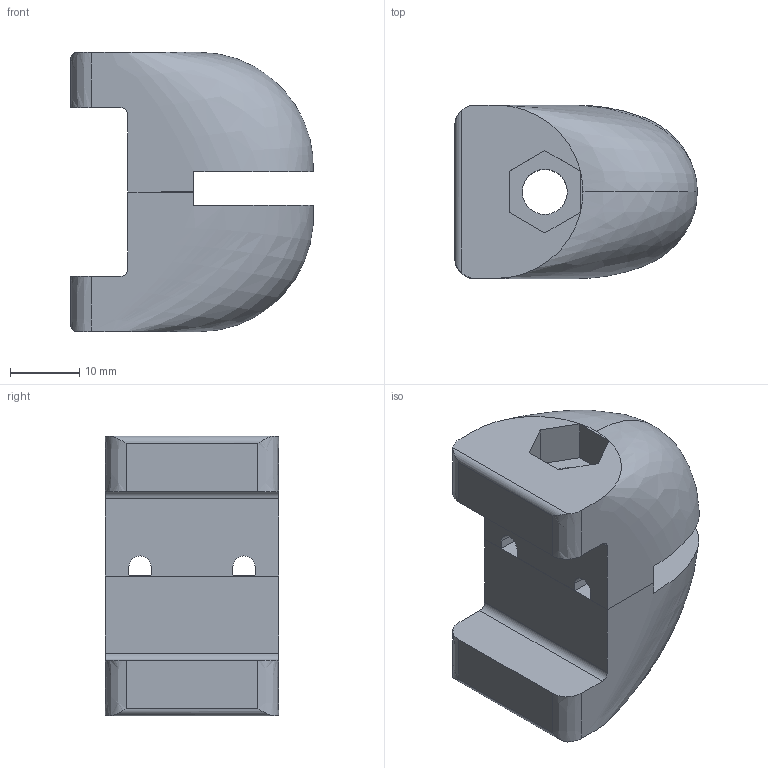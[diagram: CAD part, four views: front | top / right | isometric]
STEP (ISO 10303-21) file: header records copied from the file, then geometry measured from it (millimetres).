
FILE_DESCRIPTION (( 'STEP AP214' ), '1' );
FILE_NAME ('L19133A-L19133B.step', '2024-12-03T16:24:08', ( '' ), ( '' ), 'SwSTEP 2.0', 'SolidWorks 2023', '' );
FILE_SCHEMA (( 'AUTOMOTIVE_DESIGN' ));
Length unit declared in the file: millimetre
Products named in the file (3): L19133B; L19133A; L19133A-L19133B
Assembly tree (2 placements, depth 2):
  L19133A-L19133B
    L19133A
    L19133B
Bounding box: 35 x 25 x 40.3 mm (x, y, z)
Volume: 19397.8 mm3; surface area: 7106.1 mm2
Topology: 2 solids, 2 shells, 54 faces, 146 edges, 96 vertices
Faces by surface type: plane 38, cylinder 8, bspline 8
Full cylindrical faces by diameter (mm): 6.5 x2
Entity records: 2940 total; most frequent: CARTESIAN_POINT 1549, ORIENTED_EDGE 284, DIRECTION 253, EDGE_CURVE 142, VERTEX_POINT 94, LINE 91, VECTOR 91, AXIS2_PLACEMENT_3D 81
